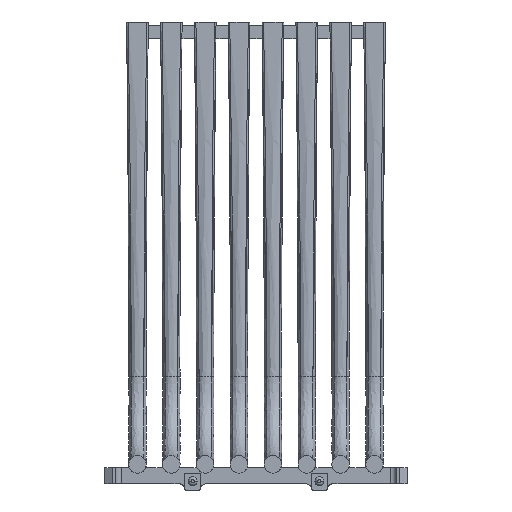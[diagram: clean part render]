
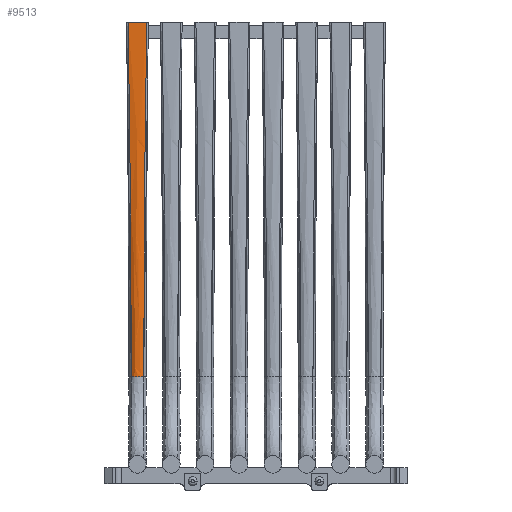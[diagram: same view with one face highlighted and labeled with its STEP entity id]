
A CAD part, left-side view. The second image highlights one B-rep face of the part: STEP entity #9513.
In plain terms, the highlighted free-form (B-spline) face has degree [3, 3] with [11, 4] control points.
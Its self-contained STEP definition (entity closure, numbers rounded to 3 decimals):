
#1962=CARTESIAN_POINT('',(24.169,22.831,16.002));
#1963=CARTESIAN_POINT('',(24.095,22.757,16.002));
#1964=CARTESIAN_POINT('',(23.961,22.595,15.999));
#1965=CARTESIAN_POINT('',(23.812,22.316,16.));
#1966=CARTESIAN_POINT('',(23.721,22.014,16.));
#1967=CARTESIAN_POINT('',(23.69,21.7,16.));
#1968=CARTESIAN_POINT('',(23.721,21.386,16.));
#1969=CARTESIAN_POINT('',(23.812,21.084,16.));
#1970=CARTESIAN_POINT('',(23.961,20.805,16.));
#1971=CARTESIAN_POINT('',(24.095,20.643,16.));
#1972=CARTESIAN_POINT('',(24.169,20.569,16.));
#1977=CARTESIAN_POINT('',(24.169,22.831,16.002));
#1978=CARTESIAN_POINT('',(24.169,22.831,22.556));
#1979=CARTESIAN_POINT('',(24.16,22.873,36.106));
#1980=CARTESIAN_POINT('',(24.164,23.055,57.671));
#1981=CARTESIAN_POINT('',(24.237,23.273,73.065));
#1982=CARTESIAN_POINT('',(24.3,23.4,81.));
#2015=CARTESIAN_POINT('',(24.3,20.,81.));
#2016=CARTESIAN_POINT('',(24.293,20.014,80.118));
#2017=CARTESIAN_POINT('',(24.279,20.043,78.272));
#2018=CARTESIAN_POINT('',(24.259,20.09,75.268));
#2019=CARTESIAN_POINT('',(24.239,20.139,71.985));
#2020=CARTESIAN_POINT('',(24.22,20.19,68.398));
#2021=CARTESIAN_POINT('',(24.202,20.242,64.475));
#2022=CARTESIAN_POINT('',(24.187,20.296,60.186));
#2023=CARTESIAN_POINT('',(24.175,20.349,55.501));
#2024=CARTESIAN_POINT('',(24.167,20.4,50.388));
#2025=CARTESIAN_POINT('',(24.162,20.449,44.824));
#2026=CARTESIAN_POINT('',(24.162,20.493,38.811));
#2027=CARTESIAN_POINT('',(24.164,20.531,32.293));
#2028=CARTESIAN_POINT('',(24.167,20.559,25.144));
#2029=CARTESIAN_POINT('',(24.169,20.568,19.8));
#2030=CARTESIAN_POINT('',(24.169,20.568,16.997));
#6805=CARTESIAN_POINT('',(24.169,20.569,16.));
#6806=CARTESIAN_POINT('',(24.169,20.569,16.332));
#6807=CARTESIAN_POINT('',(24.169,20.569,16.665));
#6808=CARTESIAN_POINT('',(24.169,20.568,16.997));
#6919=DIRECTION('',(0.,-1.,0.));
#6920=VECTOR('',#6919,3.4);
#6921=CARTESIAN_POINT('',(24.3,23.4,81.));
#6922=LINE('',#6921,#6920);
#6946=CARTESIAN_POINT('',(24.3,23.4,81.));
#7449=CARTESIAN_POINT('',(24.169,20.569,16.));
#7450=VERTEX_POINT('',#7449);
#7455=CARTESIAN_POINT('',(24.169,22.831,16.));
#7456=VERTEX_POINT('',#7455);
#7586=VERTEX_POINT('',#2015);
#7587=VERTEX_POINT('',#2030);
#7590=VERTEX_POINT('',#6946);
#9457=CARTESIAN_POINT('',(24.264,22.92,15.35));
#9458=CARTESIAN_POINT('',(24.264,22.913,37.451));
#9459=CARTESIAN_POINT('',(24.276,23.249,59.551));
#9460=CARTESIAN_POINT('',(24.301,23.927,81.65));
#9461=CARTESIAN_POINT('',(24.151,22.824,15.35));
#9462=CARTESIAN_POINT('',(24.15,22.818,37.451));
#9463=CARTESIAN_POINT('',(24.201,23.106,59.551));
#9464=CARTESIAN_POINT('',(24.303,23.688,81.65));
#9465=CARTESIAN_POINT('',(23.982,22.633,15.35));
#9466=CARTESIAN_POINT('',(23.979,22.629,37.451));
#9467=CARTESIAN_POINT('',(24.088,22.845,59.551));
#9468=CARTESIAN_POINT('',(24.306,23.282,81.65));
#9469=CARTESIAN_POINT('',(23.812,22.316,15.35));
#9470=CARTESIAN_POINT('',(23.809,22.314,37.45));
#9471=CARTESIAN_POINT('',(23.975,22.444,59.55));
#9472=CARTESIAN_POINT('',(24.31,22.708,81.65));
#9473=CARTESIAN_POINT('',(23.721,22.014,15.35));
#9474=CARTESIAN_POINT('',(23.717,22.013,37.45));
#9475=CARTESIAN_POINT('',(23.914,22.076,59.55));
#9476=CARTESIAN_POINT('',(24.312,22.204,81.65));
#9477=CARTESIAN_POINT('',(23.69,21.7,15.35));
#9478=CARTESIAN_POINT('',(23.686,21.7,37.45));
#9479=CARTESIAN_POINT('',(23.893,21.7,59.55));
#9480=CARTESIAN_POINT('',(24.312,21.7,81.65));
#9481=CARTESIAN_POINT('',(23.721,21.386,15.35));
#9482=CARTESIAN_POINT('',(23.717,21.387,37.45));
#9483=CARTESIAN_POINT('',(23.914,21.324,59.55));
#9484=CARTESIAN_POINT('',(24.312,21.196,81.65));
#9485=CARTESIAN_POINT('',(23.812,21.084,15.35));
#9486=CARTESIAN_POINT('',(23.809,21.086,37.45));
#9487=CARTESIAN_POINT('',(23.975,20.956,59.55));
#9488=CARTESIAN_POINT('',(24.31,20.692,81.65));
#9489=CARTESIAN_POINT('',(23.982,20.767,15.35));
#9490=CARTESIAN_POINT('',(23.979,20.771,37.451));
#9491=CARTESIAN_POINT('',(24.088,20.555,59.551));
#9492=CARTESIAN_POINT('',(24.306,20.118,81.65));
#9493=CARTESIAN_POINT('',(24.151,20.576,15.35));
#9494=CARTESIAN_POINT('',(24.15,20.582,37.451));
#9495=CARTESIAN_POINT('',(24.201,20.294,59.551));
#9496=CARTESIAN_POINT('',(24.303,19.712,81.65));
#9497=CARTESIAN_POINT('',(24.264,20.48,15.35));
#9498=CARTESIAN_POINT('',(24.264,20.487,37.451));
#9499=CARTESIAN_POINT('',(24.276,20.151,59.551));
#9500=CARTESIAN_POINT('',(24.301,19.473,81.65));
#9501=B_SPLINE_SURFACE_WITH_KNOTS('',3,3,((#9457,#9458,#9459,#9460),(#9461,
#9462,#9463,#9464),(#9465,#9466,#9467,#9468),(#9469,#9470,#9471,#9472),(#9473,
#9474,#9475,#9476),(#9477,#9478,#9479,#9480),(#9481,#9482,#9483,#9484),(#9485,
#9486,#9487,#9488),(#9489,#9490,#9491,#9492),(#9493,#9494,#9495,#9496),(#9497,
#9498,#9499,#9500)),.UNSPECIFIED.,.F.,.F.,.F.,(4,1,1,1,1,1,1,1,4),(4,4),(
-0.052,0.125,0.25,0.375,0.5,0.625,0.75,0.875,
1.052),(31.483,97.783),.UNSPECIFIED.);
#9503=ORIENTED_EDGE('',*,*,#9502,.T.);
#9505=ORIENTED_EDGE('',*,*,#9504,.F.);
#9506=ORIENTED_EDGE('',*,*,#9447,.F.);
#9508=ORIENTED_EDGE('',*,*,#9507,.T.);
#9510=ORIENTED_EDGE('',*,*,#9509,.T.);
#9511=EDGE_LOOP('',(#9503,#9505,#9506,#9508,#9510));
#9512=FACE_OUTER_BOUND('',#9511,.F.);
#1973=B_SPLINE_CURVE_WITH_KNOTS('',3,(#1962,#1963,#1964,#1965,#1966,#1967,#1968,
#1969,#1970,#1971,#1972),.UNSPECIFIED.,.F.,.F.,(4,1,1,1,1,1,1,1,4),(0.,
0.125,0.25,0.375,0.5,
0.625,0.75,0.875,1.),.UNSPECIFIED.);
#1983=B_SPLINE_CURVE_WITH_KNOTS('',3,(#1977,#1978,#1979,#1980,#1981,#1982),
.UNSPECIFIED.,.F.,.F.,(4,1,1,4),(0.,0.333,0.667,1.),
.UNSPECIFIED.);
#2031=B_SPLINE_CURVE_WITH_KNOTS('',3,(#2015,#2016,#2017,#2018,#2019,#2020,#2021,
#2022,#2023,#2024,#2025,#2026,#2027,#2028,#2029,#2030),.UNSPECIFIED.,.F.,.F.,(4,
1,1,1,1,1,1,1,1,1,1,1,1,4),(0.,0.077,0.154,
0.231,0.308,0.385,0.462,
0.538,0.615,0.692,0.769,
0.846,0.923,1.),.UNSPECIFIED.);
#6809=B_SPLINE_CURVE_WITH_KNOTS('',3,(#6805,#6806,#6807,#6808),.UNSPECIFIED.,
.F.,.F.,(4,4),(0.,1.),.UNSPECIFIED.);
#9447=EDGE_CURVE('',#7456,#7450,#1973,.T.);
#9502=EDGE_CURVE('',#7586,#7587,#2031,.T.);
#9504=EDGE_CURVE('',#7450,#7587,#6809,.T.);
#9507=EDGE_CURVE('',#7456,#7590,#1983,.T.);
#9509=EDGE_CURVE('',#7590,#7586,#6922,.T.);
#9513=ADVANCED_FACE('',(#9512),#9501,.T.);
